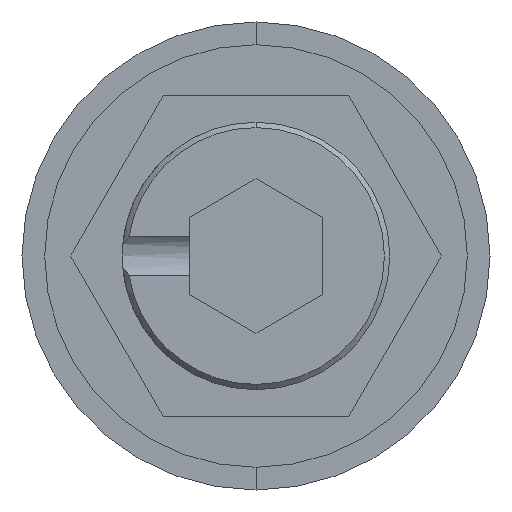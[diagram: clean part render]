
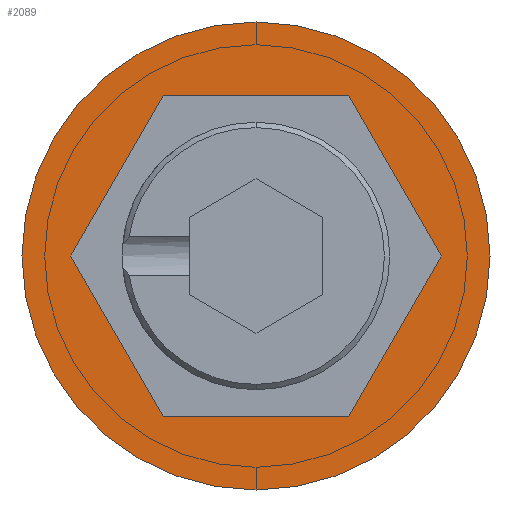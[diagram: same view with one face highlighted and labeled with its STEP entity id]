
A CAD part, front view. The second image highlights one B-rep face of the part: STEP entity #2089.
In plain terms, the highlighted planar face has unit normal (0, -1, 0).
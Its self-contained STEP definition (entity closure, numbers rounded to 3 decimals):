
#7 = DIRECTION ( 'NONE',  ( 0., 0., -1. ) ) ;
#17 = CARTESIAN_POINT ( 'NONE',  ( 3.464, 0., -6. ) ) ;
#81 = CARTESIAN_POINT ( 'NONE',  ( 0., 0., 8.75 ) ) ;
#87 = VECTOR ( 'NONE', #1732, 1000. ) ;
#88 = VERTEX_POINT ( 'NONE', #709 ) ;
#100 = CARTESIAN_POINT ( 'NONE',  ( -3.464, 0., -6. ) ) ;
#108 = DIRECTION ( 'NONE',  ( 0., 0., -1. ) ) ;
#119 = LINE ( 'NONE', #1831, #989 ) ;
#128 = VERTEX_POINT ( 'NONE', #197 ) ;
#133 = DIRECTION ( 'NONE',  ( -0.5, 0., 0.866 ) ) ;
#168 = VERTEX_POINT ( 'NONE', #17 ) ;
#169 = VECTOR ( 'NONE', #133, 1000. ) ;
#197 = CARTESIAN_POINT ( 'NONE',  ( -3.464, 0., -6. ) ) ;
#256 = CARTESIAN_POINT ( 'NONE',  ( 0., 0., 0. ) ) ;
#284 = CARTESIAN_POINT ( 'NONE',  ( 3.464, 0., 6. ) ) ;
#392 = EDGE_CURVE ( 'NONE', #168, #1924, #488, .T. ) ;
#399 = DIRECTION ( 'NONE',  ( -0.5, 0., -0.866 ) ) ;
#406 = CIRCLE ( 'NONE', #556, 8.75 ) ;
#414 = FACE_BOUND ( 'NONE', #885, .T. ) ;
#430 = PLANE ( 'NONE',  #704 ) ;
#488 = LINE ( 'NONE', #1431, #87 ) ;
#507 = ORIENTED_EDGE ( 'NONE', *, *, #668, .F. ) ;
#508 = VECTOR ( 'NONE', #399, 1000. ) ;
#510 = CIRCLE ( 'NONE', #1108, 8.75 ) ;
#556 = AXIS2_PLACEMENT_3D ( 'NONE', #2140, #1116, #108 ) ;
#585 = VERTEX_POINT ( 'NONE', #1907 ) ;
#668 = EDGE_CURVE ( 'NONE', #88, #128, #119, .T. ) ;
#704 = AXIS2_PLACEMENT_3D ( 'NONE', #256, #929, #1634 ) ;
#709 = CARTESIAN_POINT ( 'NONE',  ( -6.928, 0., 0. ) ) ;
#808 = DIRECTION ( 'NONE',  ( 0.5, 0., -0.866 ) ) ;
#813 = LINE ( 'NONE', #284, #1617 ) ;
#848 = VECTOR ( 'NONE', #1294, 1000. ) ;
#859 = EDGE_CURVE ( 'NONE', #1924, #1647, #1058, .T. ) ;
#861 = CARTESIAN_POINT ( 'NONE',  ( -3.464, 0., 6. ) ) ;
#885 = EDGE_LOOP ( 'NONE', ( #957, #507, #1886, #985, #1039, #1033 ) ) ;
#929 = DIRECTION ( 'NONE',  ( 0., -1., 0. ) ) ;
#957 = ORIENTED_EDGE ( 'NONE', *, *, #1667, .F. ) ;
#985 = ORIENTED_EDGE ( 'NONE', *, *, #1727, .F. ) ;
#989 = VECTOR ( 'NONE', #808, 1000. ) ;
#1010 = LINE ( 'NONE', #1248, #508 ) ;
#1017 = DIRECTION ( 'NONE',  ( 0., -1., 0. ) ) ;
#1033 = ORIENTED_EDGE ( 'NONE', *, *, #392, .F. ) ;
#1039 = ORIENTED_EDGE ( 'NONE', *, *, #859, .F. ) ;
#1058 = LINE ( 'NONE', #1992, #169 ) ;
#1108 = AXIS2_PLACEMENT_3D ( 'NONE', #2039, #1017, #7 ) ;
#1116 = DIRECTION ( 'NONE',  ( 0., -1., 0. ) ) ;
#1191 = EDGE_LOOP ( 'NONE', ( #1251, #1878 ) ) ;
#1248 = CARTESIAN_POINT ( 'NONE',  ( -3.464, 0., 6. ) ) ;
#1251 = ORIENTED_EDGE ( 'NONE', *, *, #1545, .T. ) ;
#1294 = DIRECTION ( 'NONE',  ( 1., 0., 0. ) ) ;
#1372 = LINE ( 'NONE', #100, #848 ) ;
#1431 = CARTESIAN_POINT ( 'NONE',  ( 3.464, 0., -6. ) ) ;
#1545 = EDGE_CURVE ( 'NONE', #585, #2074, #510, .T. ) ;
#1588 = EDGE_CURVE ( 'NONE', #1746, #88, #1010, .T. ) ;
#1617 = VECTOR ( 'NONE', #2146, 1000. ) ;
#1634 = DIRECTION ( 'NONE',  ( 0., 0., -1. ) ) ;
#1647 = VERTEX_POINT ( 'NONE', #2104 ) ;
#1667 = EDGE_CURVE ( 'NONE', #128, #168, #1372, .T. ) ;
#1675 = EDGE_CURVE ( 'NONE', #2074, #585, #406, .T. ) ;
#1727 = EDGE_CURVE ( 'NONE', #1647, #1746, #813, .T. ) ;
#1732 = DIRECTION ( 'NONE',  ( 0.5, 0., 0.866 ) ) ;
#1746 = VERTEX_POINT ( 'NONE', #861 ) ;
#1784 = FACE_OUTER_BOUND ( 'NONE', #1191, .T. ) ;
#1831 = CARTESIAN_POINT ( 'NONE',  ( -6.928, 0., 0. ) ) ;
#1878 = ORIENTED_EDGE ( 'NONE', *, *, #1675, .T. ) ;
#1886 = ORIENTED_EDGE ( 'NONE', *, *, #1588, .F. ) ;
#1907 = CARTESIAN_POINT ( 'NONE',  ( 0., 0., -8.75 ) ) ;
#1924 = VERTEX_POINT ( 'NONE', #2121 ) ;
#1992 = CARTESIAN_POINT ( 'NONE',  ( 6.928, 0., 0. ) ) ;
#2039 = CARTESIAN_POINT ( 'NONE',  ( 0., 0., 0. ) ) ;
#2074 = VERTEX_POINT ( 'NONE', #81 ) ;
#2089 = ADVANCED_FACE ( 'NONE', ( #414, #1784 ), #430, .T. ) ;
#2104 = CARTESIAN_POINT ( 'NONE',  ( 3.464, 0., 6. ) ) ;
#2121 = CARTESIAN_POINT ( 'NONE',  ( 6.928, 0., 0. ) ) ;
#2140 = CARTESIAN_POINT ( 'NONE',  ( 0., 0., 0. ) ) ;
#2146 = DIRECTION ( 'NONE',  ( -1., 0., 0. ) ) ;
